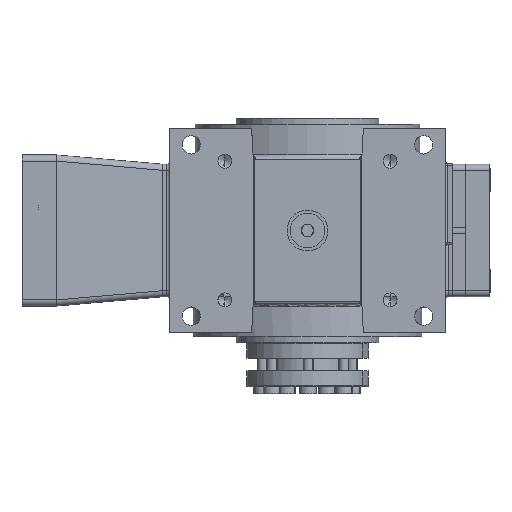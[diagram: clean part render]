
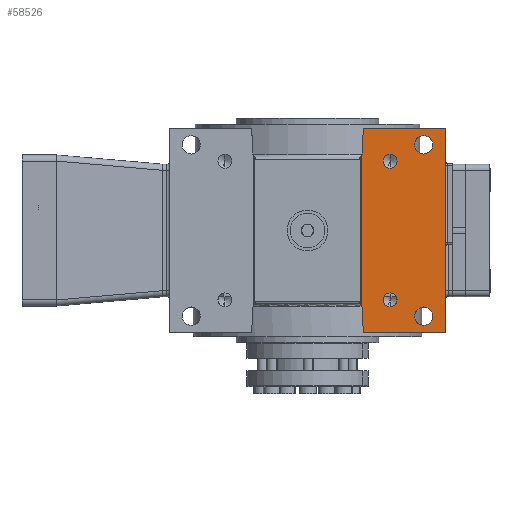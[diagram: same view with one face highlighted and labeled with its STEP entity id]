
A CAD part, front view. The second image highlights one B-rep face of the part: STEP entity #58526.
In plain terms, the highlighted planar face has unit normal (0, -1, 0).
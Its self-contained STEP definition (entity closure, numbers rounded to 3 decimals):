
#132 = VERTEX_POINT ( 'NONE', #8054 ) ;
#640 = CARTESIAN_POINT ( 'NONE',  ( 26.404, -78., 31.079 ) ) ;
#1612 = DIRECTION ( 'NONE',  ( 1., 0., 0. ) ) ;
#1852 = ORIENTED_EDGE ( 'NONE', *, *, #6980, .T. ) ;
#2132 = VERTEX_POINT ( 'NONE', #6956 ) ;
#2142 = DIRECTION ( 'NONE',  ( 0., 0., -1. ) ) ;
#2272 = DIRECTION ( 'NONE',  ( 0., -1., 0. ) ) ;
#3422 = CARTESIAN_POINT ( 'NONE',  ( 57., -78., 37.5 ) ) ;
#3640 = PLANE ( 'NONE',  #51824 ) ;
#4017 = DIRECTION ( 'NONE',  ( 0., 1., 0. ) ) ;
#4176 = EDGE_LOOP ( 'NONE', ( #36966, #65465 ) ) ;
#4333 = VERTEX_POINT ( 'NONE', #34148 ) ;
#4377 = VERTEX_POINT ( 'NONE', #58326 ) ;
#4389 = FACE_OUTER_BOUND ( 'NONE', #23682, .T. ) ;
#4825 = DIRECTION ( 'NONE',  ( 0., 0., -1. ) ) ;
#5179 = CARTESIAN_POINT ( 'NONE',  ( 26.661, -78., 36. ) ) ;
#5638 = VECTOR ( 'NONE', #1612, 1000. ) ;
#6033 = EDGE_LOOP ( 'NONE', ( #9591, #52066 ) ) ;
#6363 = VERTEX_POINT ( 'NONE', #59532 ) ;
#6533 = EDGE_CURVE ( 'NONE', #7722, #8634, #12510, .T. ) ;
#6956 = CARTESIAN_POINT ( 'NONE',  ( 40.5, -78., -30.6 ) ) ;
#6980 = EDGE_CURVE ( 'NONE', #33730, #132, #28738, .T. ) ;
#7387 = CARTESIAN_POINT ( 'NONE',  ( 57., -78., -42. ) ) ;
#7438 = VECTOR ( 'NONE', #68795, 1000. ) ;
#7722 = VERTEX_POINT ( 'NONE', #45693 ) ;
#8054 = CARTESIAN_POINT ( 'NONE',  ( 26.661, -78., 35.979 ) ) ;
#8405 = EDGE_CURVE ( 'NONE', #53564, #2132, #64855, .T. ) ;
#8591 = DIRECTION ( 'NONE',  ( 0., 0., -1. ) ) ;
#8634 = VERTEX_POINT ( 'NONE', #35814 ) ;
#8724 = EDGE_CURVE ( 'NONE', #8634, #47179, #30943, .T. ) ;
#9058 = CIRCLE ( 'NONE', #31675, 3.4 ) ;
#9109 = VECTOR ( 'NONE', #4825, 1000. ) ;
#9591 = ORIENTED_EDGE ( 'NONE', *, *, #15797, .F. ) ;
#9677 = EDGE_CURVE ( 'NONE', #2132, #53564, #72115, .T. ) ;
#9987 = CARTESIAN_POINT ( 'NONE',  ( 40.5, -78., -34. ) ) ;
#10410 = LINE ( 'NONE', #5179, #9109 ) ;
#10674 = VECTOR ( 'NONE', #34525, 1000. ) ;
#12510 = LINE ( 'NONE', #35973, #7438 ) ;
#13439 = CIRCLE ( 'NONE', #51537, 4.5 ) ;
#14223 = AXIS2_PLACEMENT_3D ( 'NONE', #19671, #48331, #2142 ) ;
#14859 = VERTEX_POINT ( 'NONE', #72590 ) ;
#15586 = CARTESIAN_POINT ( 'NONE',  ( 40.5, -78., -37.4 ) ) ;
#15797 = EDGE_CURVE ( 'NONE', #63067, #54470, #45789, .T. ) ;
#16260 = DIRECTION ( 'NONE',  ( 0., -1., 0. ) ) ;
#17169 = ORIENTED_EDGE ( 'NONE', *, *, #41330, .F. ) ;
#18509 = DIRECTION ( 'NONE',  ( 0., 0., -1. ) ) ;
#19671 = CARTESIAN_POINT ( 'NONE',  ( 57., -78., 42. ) ) ;
#20147 = CARTESIAN_POINT ( 'NONE',  ( 67.5, -78., 36. ) ) ;
#22080 = CARTESIAN_POINT ( 'NONE',  ( 40.5, -78., -34. ) ) ;
#22200 = EDGE_CURVE ( 'NONE', #7722, #33730, #39421, .T. ) ;
#22575 = DIRECTION ( 'NONE',  ( 0., 0., -1. ) ) ;
#23216 = ORIENTED_EDGE ( 'NONE', *, *, #50553, .F. ) ;
#23587 = DIRECTION ( 'NONE',  ( 0., -1., 0. ) ) ;
#23649 = ORIENTED_EDGE ( 'NONE', *, *, #8724, .F. ) ;
#23682 = EDGE_LOOP ( 'NONE', ( #73389, #1852, #36145, #71505, #72531, #28197, #23649, #65849 ) ) ;
#24638 = CARTESIAN_POINT ( 'NONE',  ( 40.5, -78., 34. ) ) ;
#25725 = CARTESIAN_POINT ( 'NONE',  ( 27.395, -78., -50. ) ) ;
#26495 = EDGE_CURVE ( 'NONE', #37413, #6363, #38073, .T. ) ;
#28197 = ORIENTED_EDGE ( 'NONE', *, *, #43718, .T. ) ;
#28738 = CIRCLE ( 'NONE', #46583, 0.8 ) ;
#28939 = DIRECTION ( 'NONE',  ( 0., -1., 0. ) ) ;
#29893 = DIRECTION ( 'NONE',  ( 0., 0., 1. ) ) ;
#30746 = VECTOR ( 'NONE', #66272, 1000. ) ;
#30943 = LINE ( 'NONE', #20147, #35123 ) ;
#31319 = DIRECTION ( 'NONE',  ( 0., 0., -1. ) ) ;
#31675 = AXIS2_PLACEMENT_3D ( 'NONE', #24638, #64159, #8591 ) ;
#31799 = CIRCLE ( 'NONE', #67544, 4.5 ) ;
#32445 = EDGE_LOOP ( 'NONE', ( #60430, #55027 ) ) ;
#33606 = CIRCLE ( 'NONE', #53818, 3.4 ) ;
#33703 = CARTESIAN_POINT ( 'NONE',  ( 67.5, -78., -50. ) ) ;
#33730 = VERTEX_POINT ( 'NONE', #41640 ) ;
#33989 = DIRECTION ( 'NONE',  ( 0., -1., 0. ) ) ;
#34148 = CARTESIAN_POINT ( 'NONE',  ( 40.5, -78., 37.4 ) ) ;
#34525 = DIRECTION ( 'NONE',  ( -0.052, 0., -0.999 ) ) ;
#35123 = VECTOR ( 'NONE', #53682, 1000. ) ;
#35814 = CARTESIAN_POINT ( 'NONE',  ( 67.5, -78., 50. ) ) ;
#35973 = CARTESIAN_POINT ( 'NONE',  ( 67.5, -78., 50. ) ) ;
#36145 = ORIENTED_EDGE ( 'NONE', *, *, #41848, .T. ) ;
#36966 = ORIENTED_EDGE ( 'NONE', *, *, #8405, .F. ) ;
#37413 = VERTEX_POINT ( 'NONE', #3422 ) ;
#37586 = AXIS2_PLACEMENT_3D ( 'NONE', #9987, #49098, #66301 ) ;
#38073 = CIRCLE ( 'NONE', #14223, 4.5 ) ;
#38686 = FACE_BOUND ( 'NONE', #6033, .T. ) ;
#39421 = LINE ( 'NONE', #640, #10674 ) ;
#41330 = EDGE_CURVE ( 'NONE', #14859, #4333, #9058, .T. ) ;
#41640 = CARTESIAN_POINT ( 'NONE',  ( 26.663, -78., 36.021 ) ) ;
#41848 = EDGE_CURVE ( 'NONE', #132, #63529, #10410, .T. ) ;
#42057 = DIRECTION ( 'NONE',  ( 0., -1., 0. ) ) ;
#42499 = CARTESIAN_POINT ( 'NONE',  ( 57., -78., 42. ) ) ;
#43503 = LINE ( 'NONE', #55040, #30746 ) ;
#43512 = FACE_BOUND ( 'NONE', #44288, .T. ) ;
#43718 = EDGE_CURVE ( 'NONE', #69810, #47179, #52656, .T. ) ;
#44288 = EDGE_LOOP ( 'NONE', ( #17169, #23216 ) ) ;
#45200 = AXIS2_PLACEMENT_3D ( 'NONE', #56537, #28939, #69177 ) ;
#45693 = CARTESIAN_POINT ( 'NONE',  ( 27.395, -78., 50. ) ) ;
#45789 = CIRCLE ( 'NONE', #64897, 4.5 ) ;
#46325 = CARTESIAN_POINT ( 'NONE',  ( 67.5, -78., -50. ) ) ;
#46583 = AXIS2_PLACEMENT_3D ( 'NONE', #58221, #23587, #29893 ) ;
#46886 = DIRECTION ( 'NONE',  ( 0., 0., -1. ) ) ;
#47179 = VERTEX_POINT ( 'NONE', #33703 ) ;
#47577 = CIRCLE ( 'NONE', #45200, 0.8 ) ;
#47874 = EDGE_CURVE ( 'NONE', #63529, #4377, #47577, .T. ) ;
#48331 = DIRECTION ( 'NONE',  ( 0., -1., 0. ) ) ;
#49098 = DIRECTION ( 'NONE',  ( 0., -1., 0. ) ) ;
#49822 = DIRECTION ( 'NONE',  ( 0., 0., 1. ) ) ;
#50553 = EDGE_CURVE ( 'NONE', #4333, #14859, #33606, .T. ) ;
#51537 = AXIS2_PLACEMENT_3D ( 'NONE', #42499, #2272, #31319 ) ;
#51721 = AXIS2_PLACEMENT_3D ( 'NONE', #22080, #33989, #67560 ) ;
#51824 = AXIS2_PLACEMENT_3D ( 'NONE', #55051, #4017, #49822 ) ;
#51876 = CARTESIAN_POINT ( 'NONE',  ( 57., -78., -37.5 ) ) ;
#52066 = ORIENTED_EDGE ( 'NONE', *, *, #61248, .F. ) ;
#52656 = LINE ( 'NONE', #46325, #5638 ) ;
#53564 = VERTEX_POINT ( 'NONE', #15586 ) ;
#53682 = DIRECTION ( 'NONE',  ( 0., 0., -1. ) ) ;
#53818 = AXIS2_PLACEMENT_3D ( 'NONE', #67338, #16260, #22575 ) ;
#54470 = VERTEX_POINT ( 'NONE', #51876 ) ;
#55027 = ORIENTED_EDGE ( 'NONE', *, *, #72048, .F. ) ;
#55040 = CARTESIAN_POINT ( 'NONE',  ( 22.641, -78., 40.724 ) ) ;
#55051 = CARTESIAN_POINT ( 'NONE',  ( -67.5, -78., 36. ) ) ;
#56537 = CARTESIAN_POINT ( 'NONE',  ( 27.461, -78., -35.979 ) ) ;
#58221 = CARTESIAN_POINT ( 'NONE',  ( 27.461, -78., 35.979 ) ) ;
#58326 = CARTESIAN_POINT ( 'NONE',  ( 26.663, -78., -36.021 ) ) ;
#58526 = ADVANCED_FACE ( 'NONE', ( #61419, #38686, #71842, #43512, #4389 ), #3640, .F. ) ;
#59532 = CARTESIAN_POINT ( 'NONE',  ( 57., -78., 46.5 ) ) ;
#60430 = ORIENTED_EDGE ( 'NONE', *, *, #26495, .F. ) ;
#61248 = EDGE_CURVE ( 'NONE', #54470, #63067, #31799, .T. ) ;
#61419 = FACE_BOUND ( 'NONE', #32445, .T. ) ;
#63067 = VERTEX_POINT ( 'NONE', #64485 ) ;
#63529 = VERTEX_POINT ( 'NONE', #64022 ) ;
#64022 = CARTESIAN_POINT ( 'NONE',  ( 26.661, -78., -35.979 ) ) ;
#64159 = DIRECTION ( 'NONE',  ( 0., -1., 0. ) ) ;
#64485 = CARTESIAN_POINT ( 'NONE',  ( 57., -78., -46.5 ) ) ;
#64855 = CIRCLE ( 'NONE', #51721, 3.4 ) ;
#64897 = AXIS2_PLACEMENT_3D ( 'NONE', #7387, #42057, #46886 ) ;
#65465 = ORIENTED_EDGE ( 'NONE', *, *, #9677, .F. ) ;
#65847 = EDGE_CURVE ( 'NONE', #4377, #69810, #43503, .T. ) ;
#65849 = ORIENTED_EDGE ( 'NONE', *, *, #6533, .F. ) ;
#66272 = DIRECTION ( 'NONE',  ( 0.052, 0., -0.999 ) ) ;
#66301 = DIRECTION ( 'NONE',  ( 0., 0., -1. ) ) ;
#67338 = CARTESIAN_POINT ( 'NONE',  ( 40.5, -78., 34. ) ) ;
#67544 = AXIS2_PLACEMENT_3D ( 'NONE', #70309, #69571, #18509 ) ;
#67560 = DIRECTION ( 'NONE',  ( 0., 0., -1. ) ) ;
#68795 = DIRECTION ( 'NONE',  ( 1., 0., 0. ) ) ;
#69177 = DIRECTION ( 'NONE',  ( 0., 0., 1. ) ) ;
#69571 = DIRECTION ( 'NONE',  ( 0., -1., 0. ) ) ;
#69810 = VERTEX_POINT ( 'NONE', #25725 ) ;
#70309 = CARTESIAN_POINT ( 'NONE',  ( 57., -78., -42. ) ) ;
#71505 = ORIENTED_EDGE ( 'NONE', *, *, #47874, .T. ) ;
#71842 = FACE_BOUND ( 'NONE', #4176, .T. ) ;
#72048 = EDGE_CURVE ( 'NONE', #6363, #37413, #13439, .T. ) ;
#72115 = CIRCLE ( 'NONE', #37586, 3.4 ) ;
#72531 = ORIENTED_EDGE ( 'NONE', *, *, #65847, .T. ) ;
#72590 = CARTESIAN_POINT ( 'NONE',  ( 40.5, -78., 30.6 ) ) ;
#73389 = ORIENTED_EDGE ( 'NONE', *, *, #22200, .T. ) ;
